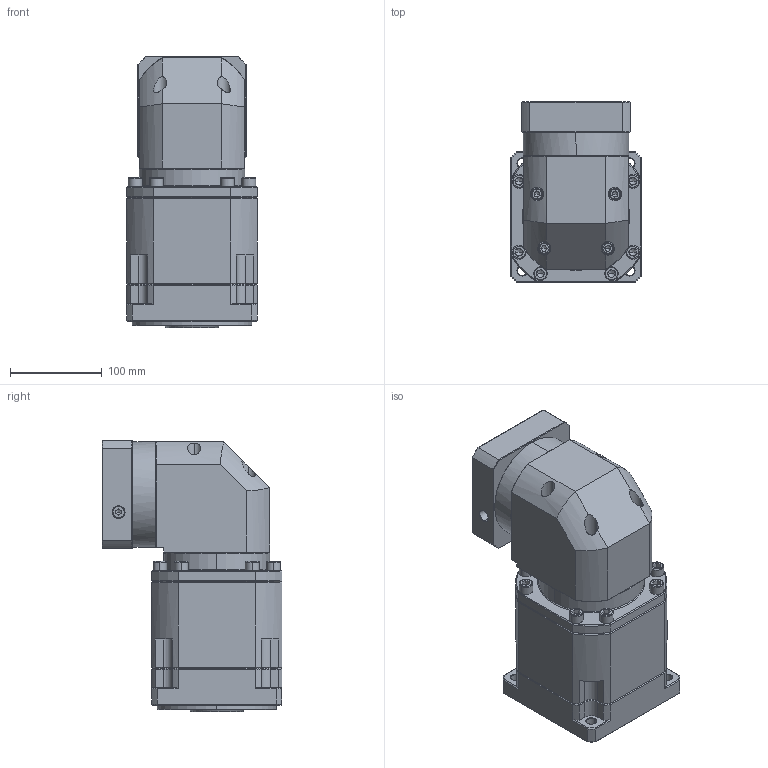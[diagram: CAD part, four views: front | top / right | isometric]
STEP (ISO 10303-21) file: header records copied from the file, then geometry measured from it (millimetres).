
FILE_DESCRIPTION (( 'STEP AP214' ), '1' );
FILE_NAME ('ZBR142A-K35-L3-P2-19-95-115-M6.step', '2023-09-02T08:14:16', ( '' ), ( '' ), 'SwSTEP 2.0', 'SolidWorks 2016', '' );
FILE_SCHEMA (( 'AUTOMOTIVE_DESIGN' ));
Length unit declared in the file: millimetre
Products named in the file (1): ZBR142A-K35-L3-P2-19-95-115-M6
Bounding box: 142 x 195.9 x 295.2 mm (x, y, z)
Volume: 4889855.3 mm3; surface area: 323067.3 mm2
Topology: 6 solids, 6 shells, 2516 faces, 6544 edges, 4152 vertices
Faces by surface type: plane 1224, cylinder 450, bspline 407, cone 391, torus 44
Entity records: 130712 total; most frequent: CARTESIAN_POINT 44568, ORIENTED_EDGE 12984, DIRECTION 10674, EDGE_CURVE 6492, VECTOR 4194, LINE 4194, VERTEX_POINT 4152, AXIS2_PLACEMENT_3D 3240
